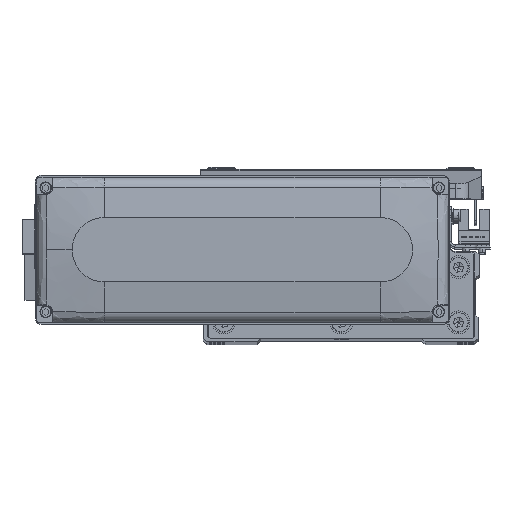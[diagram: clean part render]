
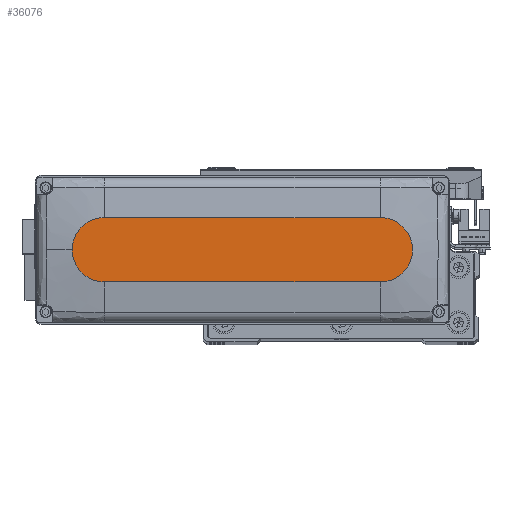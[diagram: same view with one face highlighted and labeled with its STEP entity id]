
A CAD part, top view. The second image highlights one B-rep face of the part: STEP entity #36076.
In plain terms, the highlighted planar face has unit normal (0, 0, 1).
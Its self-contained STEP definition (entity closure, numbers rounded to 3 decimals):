
#961 = CARTESIAN_POINT ( 'NONE',  ( -60., 0., 28.5 ) ) ;
#1300 = AXIS2_PLACEMENT_3D ( 'NONE', #961, #38582, #31369 ) ;
#2071 = VERTEX_POINT ( 'NONE', #24291 ) ;
#3764 = VERTEX_POINT ( 'NONE', #6920 ) ;
#4540 = DIRECTION ( 'NONE',  ( -1., 0., 0. ) ) ;
#4871 = CARTESIAN_POINT ( 'NONE',  ( -60., -14., 28.5 ) ) ;
#4950 = EDGE_CURVE ( 'NONE', #15778, #40438, #18728, .T. ) ;
#5739 = AXIS2_PLACEMENT_3D ( 'NONE', #44220, #26908, #19924 ) ;
#6412 = DIRECTION ( 'NONE',  ( 1., 0., 0. ) ) ;
#6631 = CARTESIAN_POINT ( 'NONE',  ( 60., 0., 28.5 ) ) ;
#6920 = CARTESIAN_POINT ( 'NONE',  ( 74., 0., 28.5 ) ) ;
#7333 = DIRECTION ( 'NONE',  ( 0., 0., 1. ) ) ;
#8411 = ORIENTED_EDGE ( 'NONE', *, *, #4950, .T. ) ;
#8581 = VECTOR ( 'NONE', #4540, 1000. ) ;
#9587 = FACE_OUTER_BOUND ( 'NONE', #26447, .T. ) ;
#9752 = CARTESIAN_POINT ( 'NONE',  ( 60., 14., 28.5 ) ) ;
#10783 = ORIENTED_EDGE ( 'NONE', *, *, #44460, .T. ) ;
#14042 = EDGE_CURVE ( 'NONE', #2071, #3764, #26604, .T. ) ;
#15335 = CARTESIAN_POINT ( 'NONE',  ( -60., 14., 28.5 ) ) ;
#15575 = EDGE_CURVE ( 'NONE', #40438, #38328, #32906, .T. ) ;
#15778 = VERTEX_POINT ( 'NONE', #9752 ) ;
#15795 = AXIS2_PLACEMENT_3D ( 'NONE', #6631, #23298, #6412 ) ;
#17695 = DIRECTION ( 'NONE',  ( 1., 0., 0. ) ) ;
#18728 = LINE ( 'NONE', #15335, #8581 ) ;
#19924 = DIRECTION ( 'NONE',  ( 1., 0., 0. ) ) ;
#20037 = CARTESIAN_POINT ( 'NONE',  ( -60., 14., 28.5 ) ) ;
#20363 = PLANE ( 'NONE',  #5739 ) ;
#23044 = VECTOR ( 'NONE', #27003, 1000. ) ;
#23298 = DIRECTION ( 'NONE',  ( 0., 0., 1. ) ) ;
#24291 = CARTESIAN_POINT ( 'NONE',  ( 60., -14., 28.5 ) ) ;
#25708 = CIRCLE ( 'NONE', #29293, 14. ) ;
#26432 = ORIENTED_EDGE ( 'NONE', *, *, #32913, .T. ) ;
#26447 = EDGE_LOOP ( 'NONE', ( #8411, #30965, #10783, #28589, #26432 ) ) ;
#26604 = CIRCLE ( 'NONE', #15795, 14. ) ;
#26908 = DIRECTION ( 'NONE',  ( 0., 0., 1. ) ) ;
#27003 = DIRECTION ( 'NONE',  ( 1., 0., 0. ) ) ;
#27436 = CARTESIAN_POINT ( 'NONE',  ( -60., -14., 28.5 ) ) ;
#28589 = ORIENTED_EDGE ( 'NONE', *, *, #14042, .T. ) ;
#29293 = AXIS2_PLACEMENT_3D ( 'NONE', #31861, #7333, #17695 ) ;
#30965 = ORIENTED_EDGE ( 'NONE', *, *, #15575, .T. ) ;
#31369 = DIRECTION ( 'NONE',  ( 1., 0., 0. ) ) ;
#31861 = CARTESIAN_POINT ( 'NONE',  ( 60., 0., 28.5 ) ) ;
#32906 = CIRCLE ( 'NONE', #1300, 14. ) ;
#32913 = EDGE_CURVE ( 'NONE', #3764, #15778, #25708, .T. ) ;
#36076 = ADVANCED_FACE ( 'NONE', ( #9587 ), #20363, .T. ) ;
#38328 = VERTEX_POINT ( 'NONE', #4871 ) ;
#38582 = DIRECTION ( 'NONE',  ( 0., 0., 1. ) ) ;
#40278 = LINE ( 'NONE', #27436, #23044 ) ;
#40438 = VERTEX_POINT ( 'NONE', #20037 ) ;
#44220 = CARTESIAN_POINT ( 'NONE',  ( 0., 0., 28.5 ) ) ;
#44460 = EDGE_CURVE ( 'NONE', #38328, #2071, #40278, .T. ) ;
